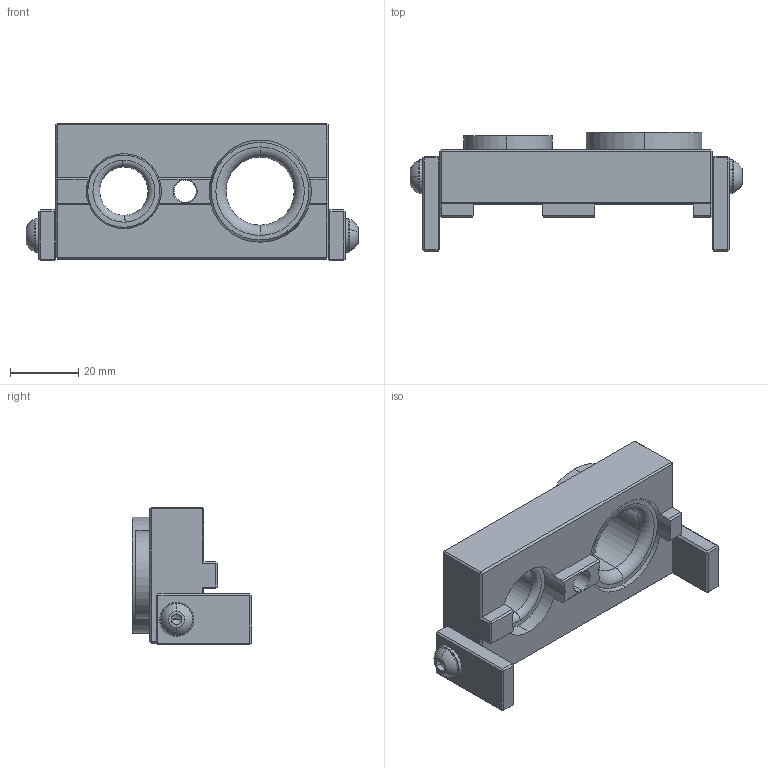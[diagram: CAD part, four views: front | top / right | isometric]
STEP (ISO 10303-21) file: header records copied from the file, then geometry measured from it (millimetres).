
FILE_DESCRIPTION (( 'STEP AP203' ), '1' );
FILE_NAME ('50252_BOHVER4080UNI.STEP', '2018-10-04T10:55:30', ( '' ), ( '' ), 'SwSTEP 2.0', 'SolidWorks 2017', '' );
FILE_SCHEMA (( 'CONFIG_CONTROL_DESIGN' ));
Length unit declared in the file: millimetre
Products named in the file (7): 50252-01-0000-03; 50252_BOHVER4080UNI; 50252-01-0000-00; 08910_B2000X20; 08910_B1420X16; socket button head screw_iso_ISO 7380 - M5 x 10 - 10N; plain washer normal grade a_iso_Washer ISO 7089 - 5
Assembly tree (9 placements, depth 2):
  50252_BOHVER4080UNI
    50252-01-0000-00
    08910_B2000X20
    08910_B1420X16
    socket button head screw_iso_ISO 7380 - M5 x 10 - 10N  x2
    plain washer normal grade a_iso_Washer ISO 7089 - 5  x2
    50252-01-0000-03  x2
Bounding box: 97.5 x 35 x 40.5 mm (x, y, z)
Volume: 50939 mm3; surface area: 21731.8 mm2
Topology: 9 solids, 9 shells, 249 faces, 530 edges, 296 vertices
Faces by surface type: plane 147, cylinder 46, cone 36, torus 16, sphere 4
Entity records: 5737 total; most frequent: CARTESIAN_POINT 923, DIRECTION 888, ORIENTED_EDGE 780, EDGE_CURVE 390, AXIS2_PLACEMENT_3D 322, VECTOR 244, LINE 244, VERTEX_POINT 221
